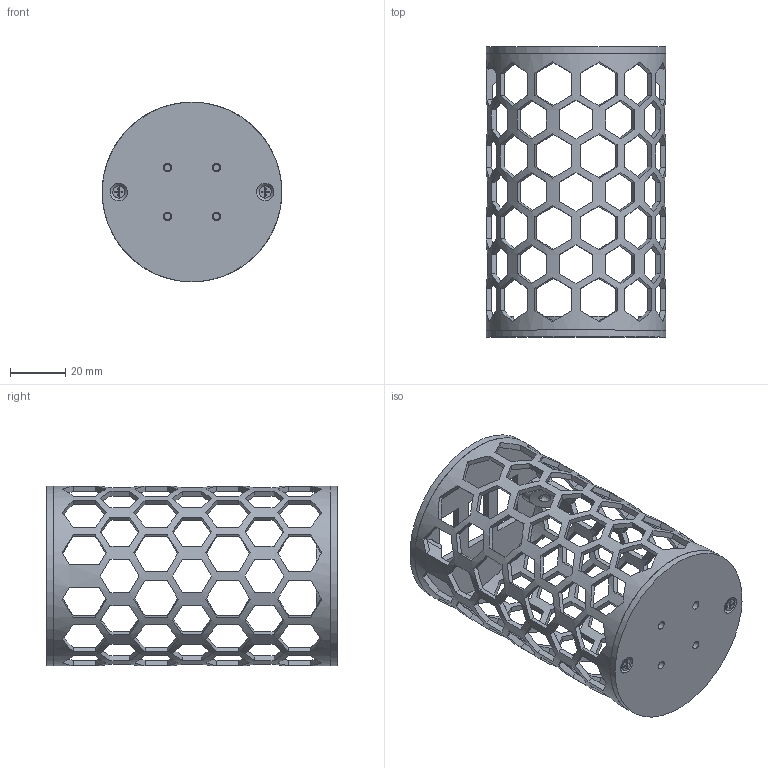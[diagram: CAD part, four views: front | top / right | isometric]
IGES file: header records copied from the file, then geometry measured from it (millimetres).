
Global section: file name: Cansat_Estandar; native system: Autodesk Inventor 2022; preprocessor: unknown; author: pined; date: 20220607.174022; units: millimetre
Bounding box: 65 x 105 x 65 mm (x, y, z)
Volume: 35590.8 mm3; surface area: 43127 mm2
Topology: 17 solids, 17 shells, 916 faces, 2574 edges, 1690 vertices
Faces by surface type: bspline 916
